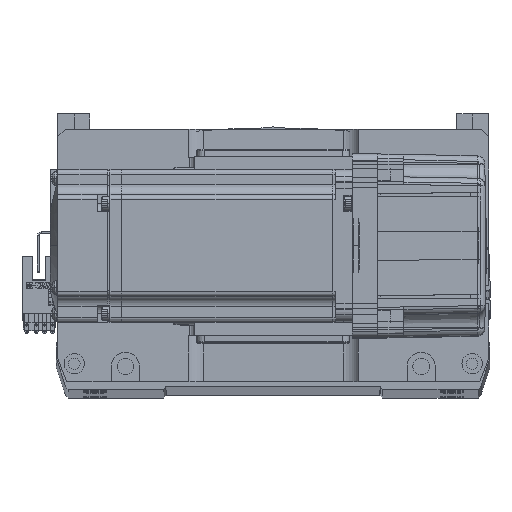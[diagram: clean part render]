
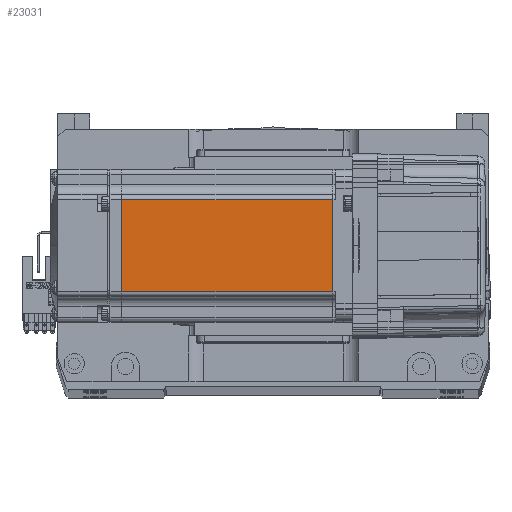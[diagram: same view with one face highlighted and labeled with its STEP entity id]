
A CAD part, top view. The second image highlights one B-rep face of the part: STEP entity #23031.
In plain terms, the highlighted planar face has unit normal (0, 0, 1).
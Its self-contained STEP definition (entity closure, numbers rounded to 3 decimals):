
#232 = DIRECTION ( 'NONE',  ( 0., 0., 1. ) ) ;
#2142 = CARTESIAN_POINT ( 'NONE',  ( -90.45, -18., 30. ) ) ;
#5553 = VECTOR ( 'NONE', #47107, 1000. ) ;
#5881 = CARTESIAN_POINT ( 'NONE',  ( -6.5, -25., 30. ) ) ;
#8517 = VERTEX_POINT ( 'NONE', #21275 ) ;
#12444 = VECTOR ( 'NONE', #14928, 1000. ) ;
#12913 = LINE ( 'NONE', #36105, #31392 ) ;
#14928 = DIRECTION ( 'NONE',  ( 0., -1., 0. ) ) ;
#16064 = PLANE ( 'NONE',  #28900 ) ;
#19825 = EDGE_CURVE ( 'NONE', #22470, #8517, #26881, .T. ) ;
#21275 = CARTESIAN_POINT ( 'NONE',  ( -7.75, -18., 30. ) ) ;
#22470 = VERTEX_POINT ( 'NONE', #29406 ) ;
#23031 = ADVANCED_FACE ( 'NONE', ( #45898 ), #16064, .T. ) ;
#23809 = ORIENTED_EDGE ( 'NONE', *, *, #36109, .F. ) ;
#25231 = ORIENTED_EDGE ( 'NONE', *, *, #62349, .T. ) ;
#26881 = LINE ( 'NONE', #30859, #12444 ) ;
#27147 = LINE ( 'NONE', #38577, #45739 ) ;
#27737 = DIRECTION ( 'NONE',  ( -1., 0., 0. ) ) ;
#28900 = AXIS2_PLACEMENT_3D ( 'NONE', #5881, #232, #51699 ) ;
#29406 = CARTESIAN_POINT ( 'NONE',  ( -7.75, 18., 30. ) ) ;
#30859 = CARTESIAN_POINT ( 'NONE',  ( -7.75, 0., 30. ) ) ;
#31392 = VECTOR ( 'NONE', #56693, 1000. ) ;
#32088 = LINE ( 'NONE', #57556, #5553 ) ;
#36105 = CARTESIAN_POINT ( 'NONE',  ( -90.45, 0., 30. ) ) ;
#36109 = EDGE_CURVE ( 'NONE', #8517, #41050, #27147, .T. ) ;
#37680 = CARTESIAN_POINT ( 'NONE',  ( -90.45, 18., 30. ) ) ;
#38577 = CARTESIAN_POINT ( 'NONE',  ( -6.5, -18., 30. ) ) ;
#38578 = EDGE_CURVE ( 'NONE', #22470, #58022, #32088, .T. ) ;
#40654 = ORIENTED_EDGE ( 'NONE', *, *, #19825, .F. ) ;
#41050 = VERTEX_POINT ( 'NONE', #2142 ) ;
#45739 = VECTOR ( 'NONE', #27737, 1000. ) ;
#45898 = FACE_OUTER_BOUND ( 'NONE', #51245, .T. ) ;
#47107 = DIRECTION ( 'NONE',  ( -1., 0., 0. ) ) ;
#51245 = EDGE_LOOP ( 'NONE', ( #40654, #64858, #25231, #23809 ) ) ;
#51699 = DIRECTION ( 'NONE',  ( 1., 0., 0. ) ) ;
#56693 = DIRECTION ( 'NONE',  ( 0., -1., 0. ) ) ;
#57556 = CARTESIAN_POINT ( 'NONE',  ( -6.5, 18., 30. ) ) ;
#58022 = VERTEX_POINT ( 'NONE', #37680 ) ;
#62349 = EDGE_CURVE ( 'NONE', #58022, #41050, #12913, .T. ) ;
#64858 = ORIENTED_EDGE ( 'NONE', *, *, #38578, .T. ) ;
